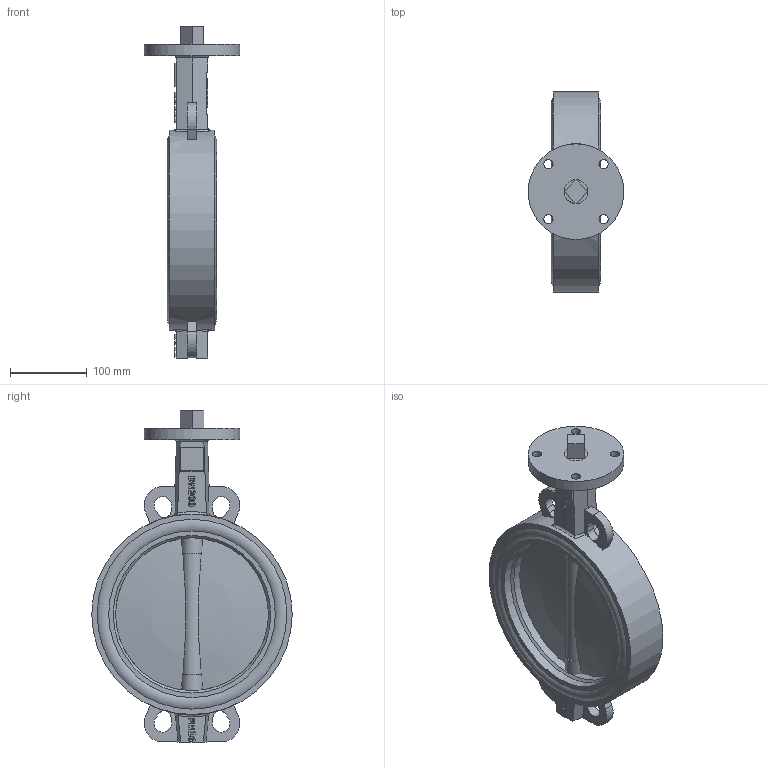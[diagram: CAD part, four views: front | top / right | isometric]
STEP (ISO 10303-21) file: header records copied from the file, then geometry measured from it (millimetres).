
FILE_DESCRIPTION(('STEP AP242'), '1');
FILE_NAME('Ïîâîðîòíûé çàòâîð ïîä ýëåêòðîïðèâîä', '', ('UNSPECIFIED'), ('UNSPECIFIED'), 'C3D Converter', 'C3D Toolkit', '');
FILE_SCHEMA(('AP242_MANAGED_MODEL_BASED_3D_ENGINEERING_MIM_LF { 1 0 10303 442 1 1 4 }'));
Length unit declared in the file: millimetre
Products named in the file (6): П
Assembly tree (6 placements, depth 2):
  (unnamed)
    (unnamed)
    П  x2
    (unnamed)
    (unnamed)
    (unnamed)
Bounding box: 125 x 262 x 434 mm (x, y, z)
Volume: 2277502.2 mm3; surface area: 480643 mm2
Topology: 6 solids, 6 shells, 419 faces, 1116 edges, 734 vertices
Faces by surface type: plane 189, extrusion 151, cylinder 57, bspline 8, torus 6, cone 4, sphere 4
Full cylindrical faces by diameter (mm): 11.421 x1, 12 x4, 22 x6, 28.31 x4, 31.113 x5, 125 x1, 200 x1, 205.96 x2, 217.88 x2, 232.987 x4, 248.093 x4, 262 x1
Entity records: 18213 total; most frequent: CARTESIAN_POINT 6302, ORIENTED_EDGE 2132, DIRECTION 1504, EDGE_CURVE 1066, VERTEX_POINT 729, VECTOR 692, LINE 541, EDGE_LOOP 513
